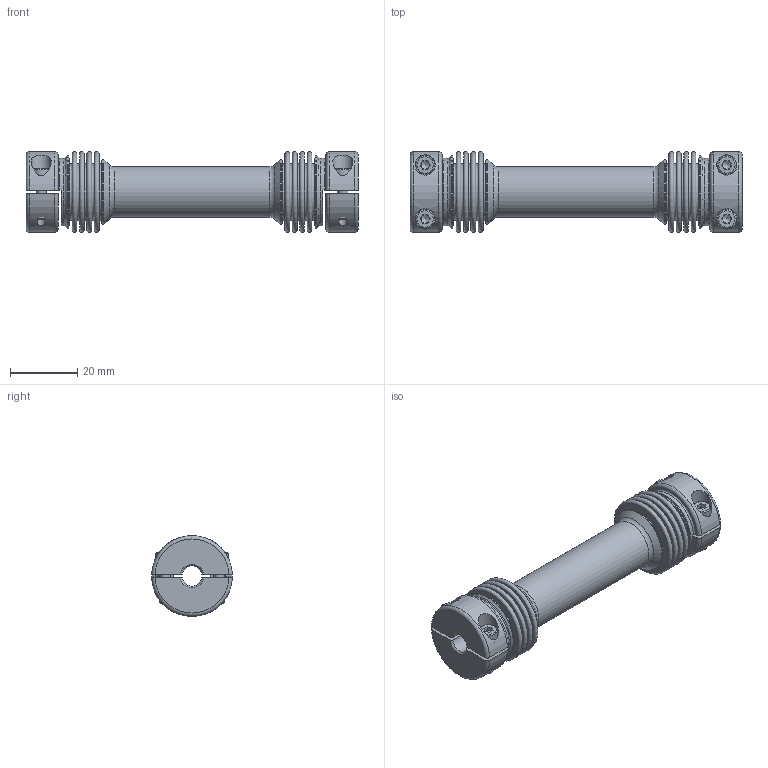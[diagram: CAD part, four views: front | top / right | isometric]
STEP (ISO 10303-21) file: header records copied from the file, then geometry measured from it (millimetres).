
FILE_DESCRIPTION(/* description */ ('Unknown'),/* implementation_level */ '2;1');
FILE_NAME(/* name */ 'WDZ4-step',/* time_stamp */ '2022-03-23T14:23:15+01:00',/* author */ ('Unknown'),/* organization */ ('Unknown'),/* preprocessor_version */ 'ST-DEVELOPER v16.7',/* originating_system */ 'DEX',/* authorisation */ $);
FILE_SCHEMA (('AUTOMOTIVE_DESIGN {1 0 10303 214 3 1 1}'));
Length unit declared in the file: millimetre
Products named in the file (5): WDZ4-step; MB-16824217-Zwischenrohr; 20724218; 24224219; kt101217
Assembly tree (9 placements, depth 2):
  WDZ4-step
    MB-16824217-Zwischenrohr
    20724218  x2
    24224219  x2
    kt101217  x4
Bounding box: 98.55 x 24 x 24 mm (x, y, z)
Volume: 15728.4 mm3; surface area: 23908.1 mm2
Topology: 11 solids, 11 shells, 268 faces, 546 edges, 346 vertices
Faces by surface type: plane 132, torus 58, cylinder 52, cone 26
Full cylindrical faces by diameter (mm): 2.459 x4, 3 x4, 3.4 x4, 5.5 x4, 6 x4, 11 x2, 12 x1, 13 x4, 15 x1, 16 x2, 18.508 x2, 19.5 x4, 20 x2, 20.9 x2, 21.5 x4
Entity records: 3117 total; most frequent: CARTESIAN_POINT 581, DIRECTION 538, ORIENTED_EDGE 356, AXIS2_PLACEMENT_3D 245, FACE_BOUND 220, EDGE_LOOP 219, EDGE_CURVE 178, VERTEX_POINT 148
